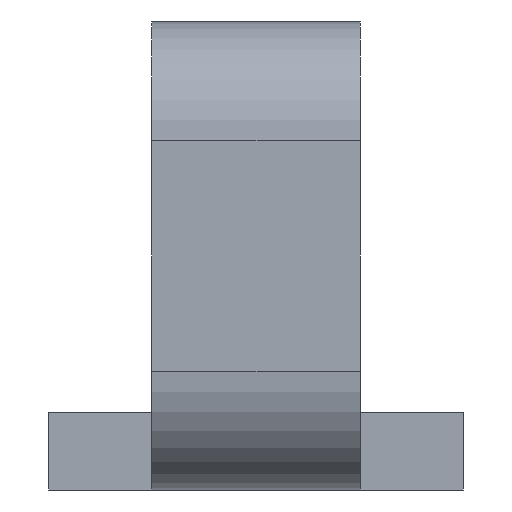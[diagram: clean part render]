
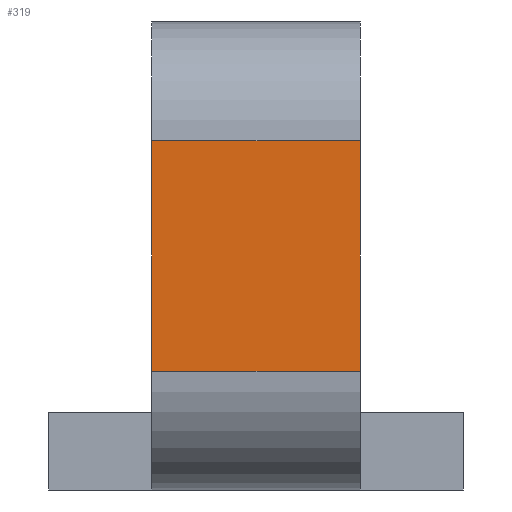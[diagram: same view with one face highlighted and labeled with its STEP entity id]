
A CAD part, left-side view. The second image highlights one B-rep face of the part: STEP entity #319.
In plain terms, the highlighted planar face has unit normal (-1, 0, 0).
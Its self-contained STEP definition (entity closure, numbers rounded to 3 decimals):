
#17 = DIRECTION ( 'NONE',  ( 1., 0., 0. ) ) ;
#34 = CARTESIAN_POINT ( 'NONE',  ( -1.905, 0.51, 0.58 ) ) ;
#150 = CARTESIAN_POINT ( 'NONE',  ( -1.905, -0.51, 0.58 ) ) ;
#159 = VECTOR ( 'NONE', #231, 1000. ) ;
#192 = EDGE_CURVE ( 'NONE', #610, #485, #583, .T. ) ;
#216 = DIRECTION ( 'NONE',  ( 0., -1., 0. ) ) ;
#231 = DIRECTION ( 'NONE',  ( 0., 0., 1. ) ) ;
#267 = VECTOR ( 'NONE', #653, 1000. ) ;
#275 = ORIENTED_EDGE ( 'NONE', *, *, #283, .F. ) ;
#283 = EDGE_CURVE ( 'NONE', #375, #610, #710, .T. ) ;
#301 = LINE ( 'NONE', #756, #854 ) ;
#319 = ADVANCED_FACE ( 'NONE', ( #688 ), #665, .F. ) ;
#334 = CARTESIAN_POINT ( 'NONE',  ( -1.905, -0.51, 1.71 ) ) ;
#375 = VERTEX_POINT ( 'NONE', #574 ) ;
#416 = DIRECTION ( 'NONE',  ( 0., -1., 0. ) ) ;
#431 = CARTESIAN_POINT ( 'NONE',  ( -1.905, 0.51, 1.71 ) ) ;
#447 = ORIENTED_EDGE ( 'NONE', *, *, #693, .T. ) ;
#457 = CARTESIAN_POINT ( 'NONE',  ( -1.905, 0.51, 1.71 ) ) ;
#485 = VERTEX_POINT ( 'NONE', #334 ) ;
#555 = VECTOR ( 'NONE', #416, 1000. ) ;
#574 = CARTESIAN_POINT ( 'NONE',  ( -1.905, 0.51, 0.58 ) ) ;
#583 = LINE ( 'NONE', #457, #555 ) ;
#600 = LINE ( 'NONE', #150, #159 ) ;
#610 = VERTEX_POINT ( 'NONE', #431 ) ;
#615 = EDGE_CURVE ( 'NONE', #375, #995, #301, .T. ) ;
#653 = DIRECTION ( 'NONE',  ( 0., 0., 1. ) ) ;
#665 = PLANE ( 'NONE',  #907 ) ;
#669 = CARTESIAN_POINT ( 'NONE',  ( -1.905, -0.51, 0.58 ) ) ;
#688 = FACE_OUTER_BOUND ( 'NONE', #734, .T. ) ;
#693 = EDGE_CURVE ( 'NONE', #995, #485, #600, .T. ) ;
#710 = LINE ( 'NONE', #34, #267 ) ;
#722 = DIRECTION ( 'NONE',  ( 0., 0., -1. ) ) ;
#734 = EDGE_LOOP ( 'NONE', ( #447, #865, #275, #770 ) ) ;
#756 = CARTESIAN_POINT ( 'NONE',  ( -1.905, 0.51, 0.58 ) ) ;
#770 = ORIENTED_EDGE ( 'NONE', *, *, #615, .T. ) ;
#799 = CARTESIAN_POINT ( 'NONE',  ( -1.905, 0.51, 0.58 ) ) ;
#854 = VECTOR ( 'NONE', #216, 1000. ) ;
#865 = ORIENTED_EDGE ( 'NONE', *, *, #192, .F. ) ;
#907 = AXIS2_PLACEMENT_3D ( 'NONE', #799, #17, #722 ) ;
#995 = VERTEX_POINT ( 'NONE', #669 ) ;
